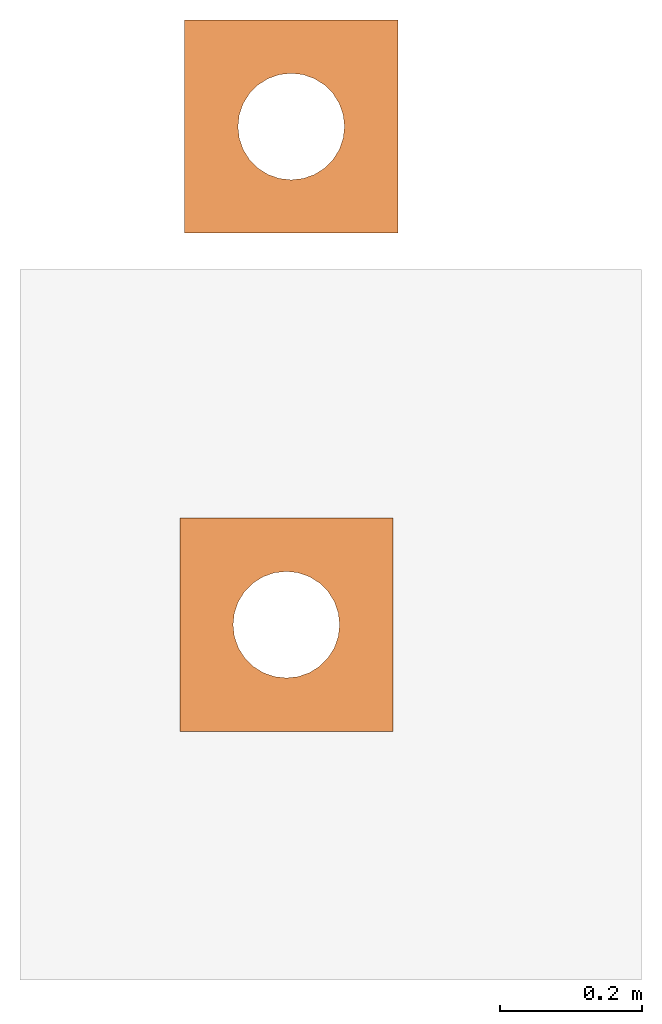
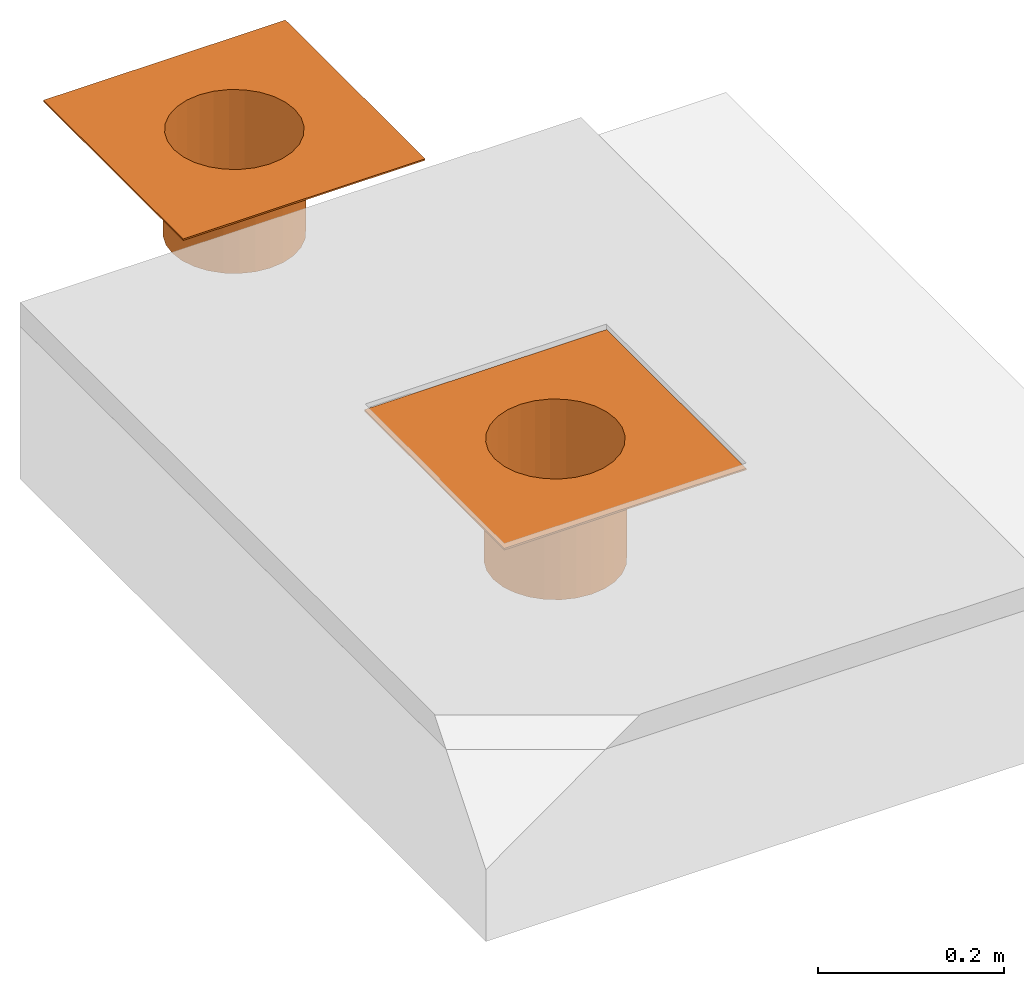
# One storey, part 2 of 3: 2 proxies.
"""IFC2X3 building model written with IfcOpenShell, lengths in metres."""

from ifc_helpers import new_model, entity, si_unit, converted_unit, derived_unit, direction, frame, frame_2d, origin, place, context, subcontext, project, spatial, polyline, circle_curve, parameter, trimmed, segment, composite_curve, hollow_circle, outline, extrude, source, transform, mapped, material, type_object, type_shapes, element, save


model = new_model("IFC2X3")

# Units and contexts
model_context = context("Model", 3, precision=1e-05, world=origin(), true_north=direction((6.123031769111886e-17, 1.0)))
body_context = subcontext(model_context, "Body", "Model", "MODEL_VIEW")
ifc_project = project(units=[si_unit("LENGTHUNIT", "METRE"), si_unit("AREAUNIT", "SQUARE_METRE"), si_unit("VOLUMEUNIT", "CUBIC_METRE"), converted_unit("PLANEANGLEUNIT", "DEGREE", entity("IfcRatioMeasure", 0.017453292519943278), si_unit("PLANEANGLEUNIT", "RADIAN"), dimensions=[0, 0, 0, 0, 0, 0, 0]), si_unit("MASSUNIT", "GRAM", prefix="KILO"), derived_unit("MASSDENSITYUNIT", [(si_unit("MASSUNIT", "GRAM", prefix="KILO"), 1), (si_unit("LENGTHUNIT", "METRE"), -3)]), derived_unit("IONCONCENTRATIONUNIT", [(si_unit("MASSUNIT", "GRAM", prefix="KILO"), 1), (si_unit("LENGTHUNIT", "METRE"), -3)]), derived_unit("MOMENTOFINERTIAUNIT", [(si_unit("LENGTHUNIT", "METRE"), 4)]), si_unit("TIMEUNIT", "SECOND"), si_unit("FREQUENCYUNIT", "HERTZ"), si_unit("THERMODYNAMICTEMPERATUREUNIT", "DEGREE_CELSIUS"), derived_unit("THERMALTRANSMITTANCEUNIT", [(si_unit("MASSUNIT", "GRAM", prefix="KILO"), 1), (si_unit("THERMODYNAMICTEMPERATUREUNIT", "KELVIN"), -1), (si_unit("TIMEUNIT", "SECOND"), -3)]), derived_unit("THERMALCONDUCTANCEUNIT", [(si_unit("MASSUNIT", "GRAM", prefix="KILO"), 1), (si_unit("THERMODYNAMICTEMPERATUREUNIT", "KELVIN"), -1), (si_unit("TIMEUNIT", "SECOND"), -3), (si_unit("LENGTHUNIT", "METRE"), 1)]), derived_unit("VOLUMETRICFLOWRATEUNIT", [(si_unit("LENGTHUNIT", "METRE"), 3), (si_unit("TIMEUNIT", "SECOND"), -1)]), derived_unit("MASSFLOWRATEUNIT", [(si_unit("MASSUNIT", "GRAM", prefix="KILO"), 1), (si_unit("TIMEUNIT", "SECOND"), -1)]), derived_unit("ROTATIONALFREQUENCYUNIT", [(si_unit("TIMEUNIT", "SECOND"), -1)]), si_unit("ELECTRICCURRENTUNIT", "AMPERE"), si_unit("ELECTRICVOLTAGEUNIT", "VOLT"), si_unit("POWERUNIT", "WATT"), si_unit("FORCEUNIT", "NEWTON", prefix="KILO"), si_unit("ILLUMINANCEUNIT", "LUX"), si_unit("LUMINOUSFLUXUNIT", "LUMEN"), si_unit("LUMINOUSINTENSITYUNIT", "CANDELA"), derived_unit("USERDEFINED", [(si_unit("MASSUNIT", "GRAM", prefix="KILO"), -1), (si_unit("LENGTHUNIT", "METRE"), -2), (si_unit("TIMEUNIT", "SECOND"), 3), (si_unit("LUMINOUSFLUXUNIT", "LUMEN"), 1)]), derived_unit("USERDEFINED", [(si_unit("MASSUNIT", "GRAM", prefix="KILO"), 1), (si_unit("TIMEUNIT", "SECOND"), -3), (si_unit("LENGTHUNIT", "METRE"), 3), (si_unit("ELECTRICCURRENTUNIT", "AMPERE"), -2)]), derived_unit("SOUNDPOWERUNIT", [(si_unit("MASSUNIT", "GRAM", prefix="KILO"), 1), (si_unit("TIMEUNIT", "SECOND"), -3), (si_unit("LENGTHUNIT", "METRE"), 2)]), derived_unit("SOUNDPRESSUREUNIT", [(si_unit("MASSUNIT", "GRAM", prefix="KILO"), 1), (si_unit("LENGTHUNIT", "METRE"), -1), (si_unit("TIMEUNIT", "SECOND"), -2)]), derived_unit("LINEARVELOCITYUNIT", [(si_unit("LENGTHUNIT", "METRE"), 1), (si_unit("TIMEUNIT", "SECOND"), -1)]), si_unit("PRESSUREUNIT", "PASCAL"), derived_unit("USERDEFINED", [(si_unit("MASSUNIT", "GRAM", prefix="KILO"), 1), (si_unit("LENGTHUNIT", "METRE"), -2), (si_unit("TIMEUNIT", "SECOND"), -2)]), derived_unit("LINEARFORCEUNIT", [(si_unit("MASSUNIT", "GRAM", prefix="KILO"), 1), (si_unit("TIMEUNIT", "SECOND"), -2)]), derived_unit("PLANARFORCEUNIT", [(si_unit("MASSUNIT", "GRAM", prefix="KILO"), 1), (si_unit("LENGTHUNIT", "METRE"), -1), (si_unit("TIMEUNIT", "SECOND"), -2)]), derived_unit("SPECIFICHEATCAPACITYUNIT", [(si_unit("THERMODYNAMICTEMPERATUREUNIT", "KELVIN"), -1), (si_unit("LENGTHUNIT", "METRE"), 2), (si_unit("TIMEUNIT", "SECOND"), -2)]), derived_unit("HEATINGVALUEUNIT", [(si_unit("LENGTHUNIT", "METRE"), 2), (si_unit("TIMEUNIT", "SECOND"), -2)]), derived_unit("VAPORPERMEABILITYUNIT", [(si_unit("LENGTHUNIT", "METRE"), -1), (si_unit("TIMEUNIT", "SECOND"), 1)]), derived_unit("DYNAMICVISCOSITYUNIT", [(si_unit("MASSUNIT", "GRAM", prefix="KILO"), 1), (si_unit("TIMEUNIT", "SECOND"), -1), (si_unit("LENGTHUNIT", "METRE"), -1)]), derived_unit("THERMALEXPANSIONCOEFFICIENTUNIT", [(si_unit("THERMODYNAMICTEMPERATUREUNIT", "KELVIN"), -1)]), derived_unit("MODULUSOFELASTICITYUNIT", [(si_unit("MASSUNIT", "GRAM", prefix="KILO"), 1), (si_unit("LENGTHUNIT", "METRE"), -1), (si_unit("TIMEUNIT", "SECOND"), -2)]), derived_unit("ISOTHERMALMOISTURECAPACITYUNIT", [(si_unit("LENGTHUNIT", "METRE"), 3), (si_unit("MASSUNIT", "GRAM", prefix="KILO"), -1)]), derived_unit("MOISTUREDIFFUSIVITYUNIT", [(si_unit("TIMEUNIT", "SECOND"), -1), (si_unit("LENGTHUNIT", "METRE"), 2)])], contexts=[model_context])

# Site, building, storey
site_placement = place(None, origin())
site = spatial("IfcSite", under=ifc_project, at=site_placement, Name="Default", CompositionType="ELEMENT")
building_placement = place(site_placement, origin())
building = spatial("IfcBuilding", under=site, at=building_placement, CompositionType="ELEMENT")
storey_placement = place(building_placement, frame((0.0, 0.0, -0.0025237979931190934)))
storey = spatial("IfcBuildingStorey", under=building, at=storey_placement, Name="ARQ Térreo", CompositionType="ELEMENT", Elevation=-0.0025237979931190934)

# Proxies
ifc_material = material(Name="_Viaboc")
building_element_proxy_type_1 = type_object("IfcBuildingElementProxyType", Name="Modelos genéricos 1:Modelos genéricos 1", PredefinedType="NOTDEFINED", material=ifc_material)
shared_shape_1 = source(origin(), body_context, "Body", "SweptSolid", [
    extrude(hollow_circle(Radius=0.07699999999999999, WallThickness=0.0020000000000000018, at=frame_2d((0.0, -8.121503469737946e-16), x_axis=(1.0, 0.0))), frame((0.9226644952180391, -1.237991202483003, -0.1355237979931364)), (0.0, 0.0, 1.0), 0.1549299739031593),
    extrude(outline(polyline([(-0.15000000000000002, -0.15000000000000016), (0.15000000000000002, -0.15000000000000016), (0.15000000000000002, 0.15000000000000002), (-0.15000000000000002, 0.15000000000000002), (-0.15000000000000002, -0.15000000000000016)]), holes=[composite_curve([segment(trimmed(circle_curve(frame_2d((0.0, 0.0), x_axis=(-1.0, 0.0)), 0.07499999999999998), [parameter(1.0177774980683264e-12)], [parameter(180.00000000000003)], True, "PARAMETER"), False, "CONTINUOUS"), segment(trimmed(circle_curve(frame_2d((0.0, 0.0), x_axis=(-1.0, 0.0)), 0.07499999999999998), [parameter(180.00000000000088)], [parameter(8.142219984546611e-13)], True, "PARAMETER"), False, "CONTINUOUS")], self_intersect=False)]), frame((0.9226644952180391, -1.2379912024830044, 0.01940617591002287), z_axis=(0.0, 0.0, 1.0), x_axis=(-1.0, 0.0, 0.0)), (0.0, 0.0, 1.0), 0.002073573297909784),
])
type_shapes(building_element_proxy_type_1, [shared_shape_1])
proxy_1_placement = place(storey_placement, frame((0.0, 0.0, 0.0025237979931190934)))
element("IfcBuildingElementProxy", 1, at=proxy_1_placement, inside=storey, type_object=building_element_proxy_type_1, material=ifc_material, Name="Modelos genéricos 1:Modelos genéricos 1", ObjectType="Modelos genéricos 1:Modelos genéricos 1", context=body_context, shape_type="MappedRepresentation", body=[
    mapped(shared_shape_1, transform((0.0, 0.0, 0.0), scale=1.0)),
])
building_element_proxy_type_2 = type_object("IfcBuildingElementProxyType", Name="Viaboc Ralo 150mm:Viaboc Ralo 150mm", PredefinedType="NOTDEFINED", material=ifc_material)
shared_shape_2 = source(origin(), body_context, "Body", "SweptSolid", [
    extrude(hollow_circle(Radius=0.07699999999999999, WallThickness=0.0020000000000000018, at=frame_2d((1.3964410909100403e-19, -8.253917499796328e-16), x_axis=(1.0, 0.0))), frame((0.0, 0.0, -0.133)), (0.0, 0.0, 1.0), 0.133),
    extrude(outline(polyline([(-0.14999999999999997, -0.14999999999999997), (0.14999999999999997, -0.14999999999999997), (0.14999999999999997, 0.14999999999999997), (-0.14999999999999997, 0.14999999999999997), (-0.14999999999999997, -0.14999999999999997)]), holes=[composite_curve([segment(trimmed(circle_curve(frame_2d((0.0, 0.0), x_axis=(-1.0, 0.0)), 0.07499999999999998), [parameter(3.053332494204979e-13)], [parameter(180.0)], True, "PARAMETER"), False, "CONTINUOUS"), segment(trimmed(circle_curve(frame_2d((0.0, 0.0), x_axis=(-1.0, 0.0)), 0.07499999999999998), [parameter(179.99999999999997)], [parameter(0.0)], True, "PARAMETER"), False, "CONTINUOUS")], self_intersect=False)]), frame((0.0, 0.0, 0.0), z_axis=(0.0, 0.0, 1.0), x_axis=(-1.0, 0.0, 0.0)), (0.0, 0.0, 1.0), 0.0019999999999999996),
])
type_shapes(building_element_proxy_type_2, [shared_shape_2])
proxy_2_placement = place(storey_placement, frame((0.9295519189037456, -0.5369387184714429, 0.0)))
element("IfcBuildingElementProxy", 2, at=proxy_2_placement, inside=storey, type_object=building_element_proxy_type_2, material=ifc_material, Name="Viaboc Ralo 150mm:Viaboc Ralo 150mm", ObjectType="Viaboc Ralo 150mm:Viaboc Ralo 150mm", context=body_context, shape_type="MappedRepresentation", body=[
    mapped(shared_shape_2, transform((0.0, 0.0, 0.0), scale=1.0)),
])

save(model, "model.ifc")
